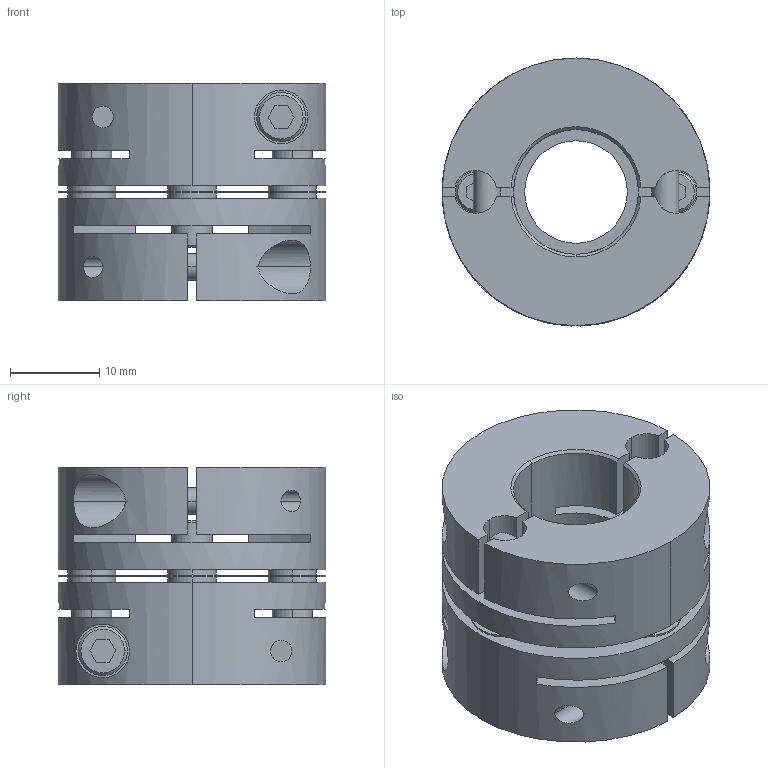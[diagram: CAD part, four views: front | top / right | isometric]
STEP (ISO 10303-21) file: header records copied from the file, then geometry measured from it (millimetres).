
FILE_DESCRIPTION((''),'2;1');
FILE_NAME('LAS-30C-14×14.stp','2011-08-10T13:21:51',(''),(''),'AutoCAD STEP 2000i','AutoCAD 2000i',', , ');
FILE_SCHEMA(('CONFIG_CONTROL_DESIGN'));
Length unit declared in the file: millimetre
Products named in the file (7): LAS-30C-10×10; 忣兜1; LA-3002-D10-1; LA-3002-D10; LA-3002-D06-1; LA-3002-D06; LAS30-ITA
Assembly tree (6 placements, depth 2):
  LAS-30C-10×10
    忣兜1
    LA-3002-D10-1
    LA-3002-D10
    LA-3002-D06-1
    LA-3002-D06
    LAS30-ITA
Bounding box: 30 x 30 x 24.4 mm (x, y, z)
Volume: 11175.9 mm3; surface area: 8761.8 mm2
Topology: 1 solids, 1 shells, 244 faces, 648 edges, 424 vertices
Faces by surface type: plane 112, cylinder 104, cone 28
Entity records: 8527 total; most frequent: CARTESIAN_POINT 2123, DIRECTION 1330, ORIENTED_EDGE 1296, EDGE_CURVE 648, AXIS2_PLACEMENT_3D 487, VERTEX_POINT 424, VECTOR 356, LINE 356
